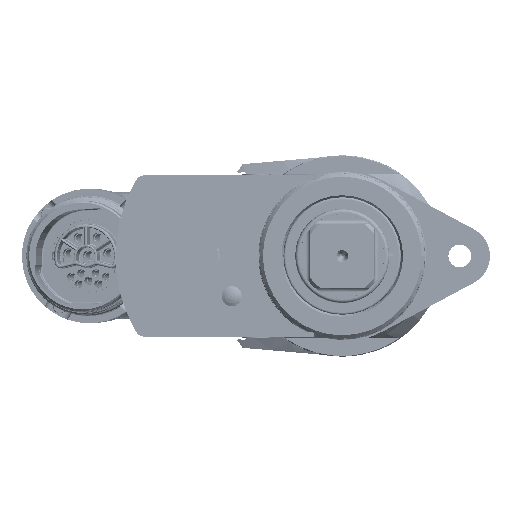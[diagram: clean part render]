
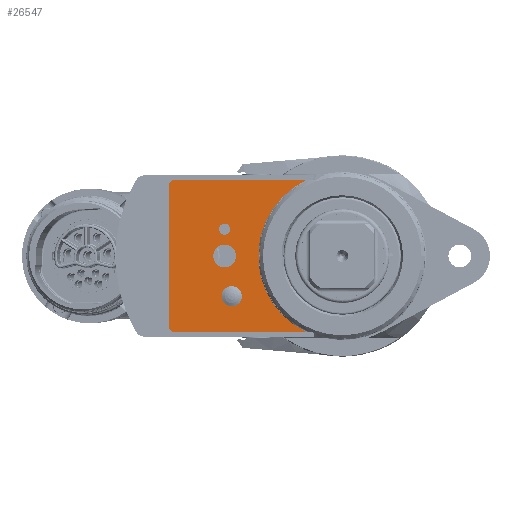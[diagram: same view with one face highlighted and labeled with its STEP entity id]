
A CAD part, left-side view. The second image highlights one B-rep face of the part: STEP entity #26547.
In plain terms, the highlighted planar face has unit normal (-1, 0, 0) as drawn and (1, 0, 0) by its records, which use the part's own axes.
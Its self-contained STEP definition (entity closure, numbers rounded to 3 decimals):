
#13108=CARTESIAN_POINT('',(-6.,0.,-35.));
#13109=DIRECTION('',(1.,0.,0.));
#13110=DIRECTION('',(0.,-1.,0.));
#13111=AXIS2_PLACEMENT_3D('',#13108,#13109,#13110);
#13116=CARTESIAN_POINT('',(-6.,0.,-35.));
#13117=DIRECTION('',(1.,0.,0.));
#13118=DIRECTION('',(0.,1.,0.));
#13119=AXIS2_PLACEMENT_3D('',#13116,#13117,#13118);
#13124=CARTESIAN_POINT('',(-6.,11.971,-32.889));
#13125=DIRECTION('',(1.,0.,0.));
#13126=DIRECTION('',(0.,1.,0.));
#13127=AXIS2_PLACEMENT_3D('',#13124,#13125,#13126);
#13132=CARTESIAN_POINT('',(-6.,11.971,-32.889));
#13133=DIRECTION('',(1.,0.,0.));
#13134=DIRECTION('',(0.,-1.,0.));
#13135=AXIS2_PLACEMENT_3D('',#13132,#13133,#13134);
#13140=DIRECTION('',(0.,0.707,-0.707));
#13141=VECTOR('',#13140,1.414);
#13142=CARTESIAN_POINT('',(-6.,-22.5,-50.5));
#13143=LINE('',#13142,#13141);
#13147=DIRECTION('',(0.,0.707,0.707));
#13148=VECTOR('',#13147,1.414);
#13149=CARTESIAN_POINT('',(-6.,21.5,-51.5));
#13150=LINE('',#13149,#13148);
#13154=DIRECTION('',(0.,-1.,0.));
#13155=VECTOR('',#13154,43.);
#13156=CARTESIAN_POINT('',(-6.,21.5,-51.5));
#13157=LINE('',#13156,#13155);
#13161=CARTESIAN_POINT('',(-6.,-8.,-35.));
#13162=DIRECTION('',(1.,0.,0.));
#13163=DIRECTION('',(0.,-1.,0.));
#13164=AXIS2_PLACEMENT_3D('',#13161,#13162,#13163);
#13169=CARTESIAN_POINT('',(-6.,-8.,-35.));
#13170=DIRECTION('',(1.,0.,0.));
#13171=DIRECTION('',(0.,1.,0.));
#13172=AXIS2_PLACEMENT_3D('',#13169,#13170,#13171);
#13218=CARTESIAN_POINT('',(-6.,22.5,-10.897));
#13233=CARTESIAN_POINT('',(-6.,0.,0.));
#13234=DIRECTION('',(-1.,0.,0.));
#13235=DIRECTION('',(0.,0.9,-0.436));
#13236=AXIS2_PLACEMENT_3D('',#13233,#13234,#13235);
#13251=CARTESIAN_POINT('',(-6.,-22.5,-10.897));
#13380=DIRECTION('',(0.,0.,1.));
#13381=VECTOR('',#13380,39.603);
#13382=CARTESIAN_POINT('',(-6.,22.5,-50.5));
#13383=LINE('',#13382,#13381);
#13699=DIRECTION('',(0.,0.,-1.));
#13700=VECTOR('',#13699,39.603);
#13701=CARTESIAN_POINT('',(-6.,-22.5,-10.897));
#13702=LINE('',#13701,#13700);
#16096=CARTESIAN_POINT('',(-6.,-3.4,-35.));
#16098=VERTEX_POINT('',#16096);
#16100=CARTESIAN_POINT('',(-6.,3.4,-35.));
#16102=VERTEX_POINT('',#16100);
#16107=CARTESIAN_POINT('',(-6.,14.971,-32.889));
#16108=VERTEX_POINT('',#16107);
#16109=CARTESIAN_POINT('',(-6.,8.971,-32.889));
#16110=VERTEX_POINT('',#16109);
#16256=VERTEX_POINT('',#13251);
#16284=VERTEX_POINT('',#13218);
#16299=CARTESIAN_POINT('',(-6.,21.5,-51.5));
#16300=CARTESIAN_POINT('',(-6.,22.5,-50.5));
#16301=VERTEX_POINT('',#16299);
#16302=VERTEX_POINT('',#16300);
#16307=CARTESIAN_POINT('',(-6.,-22.5,-50.5));
#16308=CARTESIAN_POINT('',(-6.,-21.5,-51.5));
#16309=VERTEX_POINT('',#16307);
#16310=VERTEX_POINT('',#16308);
#17274=CARTESIAN_POINT('',(-6.,-9.65,-35.));
#17275=CARTESIAN_POINT('',(-6.,-6.35,-35.));
#17276=VERTEX_POINT('',#17274);
#17277=VERTEX_POINT('',#17275);
#26510=CARTESIAN_POINT('',(-6.,0.,0.));
#26511=DIRECTION('',(-1.,0.,0.));
#26512=DIRECTION('',(0.,-1.,0.));
#26513=AXIS2_PLACEMENT_3D('',#26510,#26511,#26512);
#26514=PLANE('',#26513);
#26516=ORIENTED_EDGE('',*,*,#26515,.F.);
#26518=ORIENTED_EDGE('',*,*,#26517,.F.);
#26520=ORIENTED_EDGE('',*,*,#26519,.F.);
#26522=ORIENTED_EDGE('',*,*,#26521,.F.);
#26524=ORIENTED_EDGE('',*,*,#26523,.F.);
#26526=ORIENTED_EDGE('',*,*,#26525,.T.);
#26527=EDGE_LOOP('',(#26516,#26518,#26520,#26522,#26524,#26526));
#26528=FACE_OUTER_BOUND('',#26527,.F.);
#26530=ORIENTED_EDGE('',*,*,#26529,.T.);
#26532=ORIENTED_EDGE('',*,*,#26531,.T.);
#26533=EDGE_LOOP('',(#26530,#26532));
#26534=FACE_BOUND('',#26533,.F.);
#26536=ORIENTED_EDGE('',*,*,#26535,.T.);
#26538=ORIENTED_EDGE('',*,*,#26537,.T.);
#26539=EDGE_LOOP('',(#26536,#26538));
#26540=FACE_BOUND('',#26539,.F.);
#26542=ORIENTED_EDGE('',*,*,#26541,.T.);
#26544=ORIENTED_EDGE('',*,*,#26543,.T.);
#26545=EDGE_LOOP('',(#26542,#26544));
#26546=FACE_BOUND('',#26545,.F.);
#13112=CIRCLE('',#13111,3.4);
#13120=CIRCLE('',#13119,3.4);
#13128=CIRCLE('',#13127,3.);
#13136=CIRCLE('',#13135,3.);
#13165=CIRCLE('',#13164,1.65);
#13173=CIRCLE('',#13172,1.65);
#13237=CIRCLE('',#13236,25.);
#26515=EDGE_CURVE('',#16309,#16310,#13143,.T.);
#26517=EDGE_CURVE('',#16256,#16309,#13702,.T.);
#26519=EDGE_CURVE('',#16284,#16256,#13237,.T.);
#26521=EDGE_CURVE('',#16302,#16284,#13383,.T.);
#26523=EDGE_CURVE('',#16301,#16302,#13150,.T.);
#26525=EDGE_CURVE('',#16301,#16310,#13157,.T.);
#26529=EDGE_CURVE('',#16098,#16102,#13112,.T.);
#26531=EDGE_CURVE('',#16102,#16098,#13120,.T.);
#26535=EDGE_CURVE('',#16108,#16110,#13128,.T.);
#26537=EDGE_CURVE('',#16110,#16108,#13136,.T.);
#26541=EDGE_CURVE('',#17276,#17277,#13165,.T.);
#26543=EDGE_CURVE('',#17277,#17276,#13173,.T.);
#26547=ADVANCED_FACE('',(#26528,#26534,#26540,#26546),#26514,.F.);
